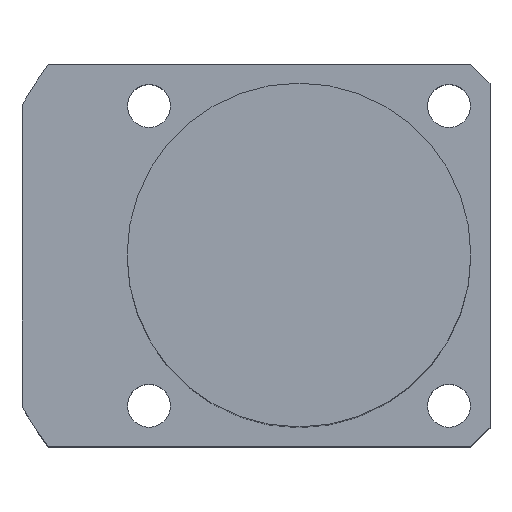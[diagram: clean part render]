
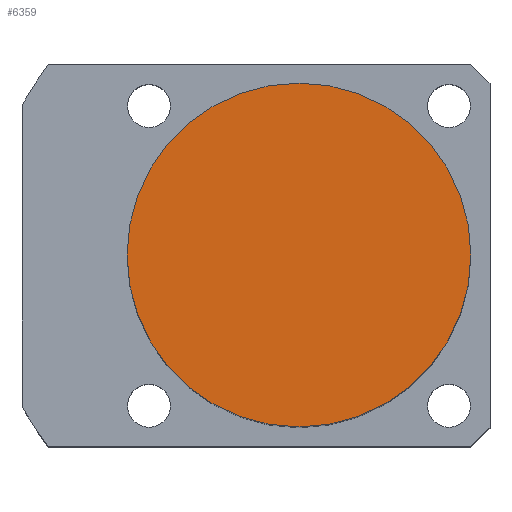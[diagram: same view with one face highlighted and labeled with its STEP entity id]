
A CAD part, top view. The second image highlights one B-rep face of the part: STEP entity #6359.
In plain terms, the highlighted planar face has unit normal (0, 0, 1).
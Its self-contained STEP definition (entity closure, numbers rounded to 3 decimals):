
#6301=CARTESIAN_POINT('',(-0.0,18.0,58.5));
#6302=VERTEX_POINT('',#6301);
#6309=CARTESIAN_POINT('',(18.0,0.0,58.5));
#6310=VERTEX_POINT('',#6309);
#6311=CARTESIAN_POINT('',(0.0,0.0,58.5));
#6312=DIRECTION('',(0.0,0.0,1.0));
#6313=DIRECTION('',(1.0,0.0,0.0));
#6314=AXIS2_PLACEMENT_3D('',#6311,#6312,#6313);
#6315=CIRCLE('',#6314,18.0);
#6316=EDGE_CURVE('no 3797',#6310,#6302,#6315,.T.);
#6318=CARTESIAN_POINT('',(-0.0,-18.0,58.5));
#6319=VERTEX_POINT('',#6318);
#6320=CARTESIAN_POINT('',(0.0,0.0,58.5));
#6321=DIRECTION('',(0.0,0.0,1.0));
#6322=DIRECTION('',(1.0,0.0,0.0));
#6323=AXIS2_PLACEMENT_3D('',#6320,#6321,#6322);
#6324=CIRCLE('',#6323,18.0);
#6325=EDGE_CURVE('no 3803',#6319,#6310,#6324,.T.);
#6343=ORIENTED_EDGE('',*,*,#6316,.T.);
#6344=CARTESIAN_POINT('',(0.0,0.0,58.5));
#6345=DIRECTION('',(0.0,0.0,1.0));
#6346=DIRECTION('',(1.0,0.0,0.0));
#6347=AXIS2_PLACEMENT_3D('',#6344,#6345,#6346);
#6348=CIRCLE('',#6347,18.0);
#6349=EDGE_CURVE('no 3820',#6302,#6319,#6348,.T.);
#6350=ORIENTED_EDGE('',*,*,#6349,.T.);
#6351=ORIENTED_EDGE('',*,*,#6325,.T.);
#6352=EDGE_LOOP('',(#6343,#6350,#6351));
#6353=FACE_OUTER_BOUND('',#6352,.T.);
#6354=CARTESIAN_POINT('',(0.0,0.0,58.5));
#6355=DIRECTION('',(0.0,0.0,1.0));
#6356=DIRECTION('',(1.0,0.0,0.0));
#6357=AXIS2_PLACEMENT_3D('',#6354,#6355,#6356);
#6358=PLANE('',#6357);
#6359=ADVANCED_FACE('no 3813',(#6353),#6358,.T.);
